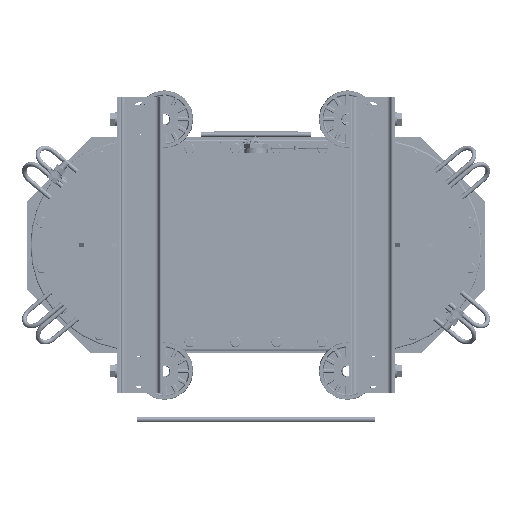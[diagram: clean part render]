
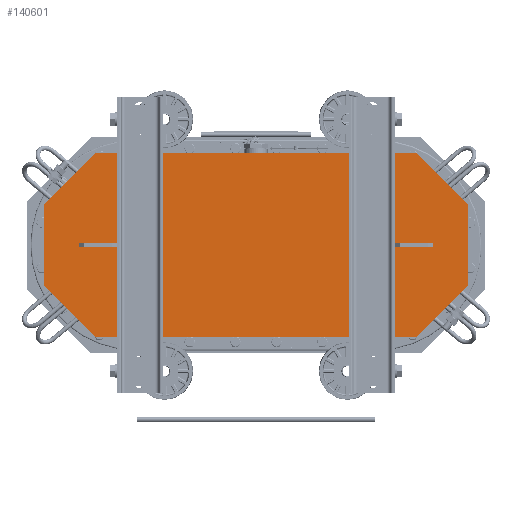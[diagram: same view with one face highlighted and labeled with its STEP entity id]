
A CAD part, front view. The second image highlights one B-rep face of the part: STEP entity #140601.
In plain terms, the highlighted planar face has unit normal (0, -1, 0).
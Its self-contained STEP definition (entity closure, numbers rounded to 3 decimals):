
#11393=PLANE('',#151423);
#18180=FACE_OUTER_BOUND('',#27401,.T.);
#27401=EDGE_LOOP('',(#108736,#108737,#108738,#108739,#108740,#108741,#108742,
#108743));
#37235=LINE('',#252282,#45519);
#37239=LINE('',#252290,#45523);
#37242=LINE('',#252296,#45526);
#37243=LINE('',#252298,#45527);
#37244=LINE('',#252300,#45528);
#37245=LINE('',#252302,#45529);
#37246=LINE('',#252304,#45530);
#37247=LINE('',#252305,#45531);
#45519=VECTOR('',#176509,10.);
#45523=VECTOR('',#176515,10.);
#45526=VECTOR('',#176520,10.);
#45527=VECTOR('',#176521,10.);
#45528=VECTOR('',#176522,10.);
#45529=VECTOR('',#176523,10.);
#45530=VECTOR('',#176524,10.);
#45531=VECTOR('',#176525,10.);
#61810=VERTEX_POINT('',#252280);
#61811=VERTEX_POINT('',#252281);
#61814=VERTEX_POINT('',#252289);
#61816=VERTEX_POINT('',#252295);
#61817=VERTEX_POINT('',#252297);
#61818=VERTEX_POINT('',#252299);
#61819=VERTEX_POINT('',#252301);
#61820=VERTEX_POINT('',#252303);
#78064=EDGE_CURVE('',#61810,#61811,#37235,.T.);
#78068=EDGE_CURVE('',#61811,#61814,#37239,.T.);
#78071=EDGE_CURVE('',#61816,#61810,#37242,.T.);
#78072=EDGE_CURVE('',#61817,#61816,#37243,.T.);
#78073=EDGE_CURVE('',#61818,#61817,#37244,.T.);
#78074=EDGE_CURVE('',#61819,#61818,#37245,.T.);
#78075=EDGE_CURVE('',#61820,#61819,#37246,.T.);
#78076=EDGE_CURVE('',#61814,#61820,#37247,.T.);
#108736=ORIENTED_EDGE('',*,*,#78064,.F.);
#108737=ORIENTED_EDGE('',*,*,#78071,.F.);
#108738=ORIENTED_EDGE('',*,*,#78072,.F.);
#108739=ORIENTED_EDGE('',*,*,#78073,.F.);
#108740=ORIENTED_EDGE('',*,*,#78074,.F.);
#108741=ORIENTED_EDGE('',*,*,#78075,.F.);
#108742=ORIENTED_EDGE('',*,*,#78076,.F.);
#108743=ORIENTED_EDGE('',*,*,#78068,.F.);
#140601=ADVANCED_FACE('',(#18180),#11393,.T.);
#151423=AXIS2_PLACEMENT_3D('',#252294,#176518,#176519);
#176509=DIRECTION('',(-0.707,0.,0.707));
#176515=DIRECTION('',(0.,0.,1.));
#176518=DIRECTION('center_axis',(0.,-1.,0.));
#176519=DIRECTION('ref_axis',(-1.,0.,0.));
#176520=DIRECTION('',(-1.,0.,0.));
#176521=DIRECTION('',(-0.707,0.,-0.707));
#176522=DIRECTION('',(0.,0.,-1.));
#176523=DIRECTION('',(0.707,0.,-0.707));
#176524=DIRECTION('',(1.,0.,0.));
#176525=DIRECTION('',(0.707,0.,0.707));
#252280=CARTESIAN_POINT('',(-276.5,-232.37,-159.));
#252281=CARTESIAN_POINT('',(-366.5,-232.37,-69.));
#252282=CARTESIAN_POINT('',(-269.625,-232.37,-165.875));
#252289=CARTESIAN_POINT('',(-366.5,-232.37,69.));
#252290=CARTESIAN_POINT('',(-366.5,-232.37,159.));
#252294=CARTESIAN_POINT('Origin',(0.,-232.37,
0.));
#252295=CARTESIAN_POINT('',(276.5,-232.37,-159.));
#252296=CARTESIAN_POINT('',(-366.5,-232.37,-159.));
#252297=CARTESIAN_POINT('',(366.5,-232.37,-69.));
#252298=CARTESIAN_POINT('',(269.625,-232.37,-165.875));
#252299=CARTESIAN_POINT('',(366.5,-232.37,69.));
#252300=CARTESIAN_POINT('',(366.5,-232.37,-159.));
#252301=CARTESIAN_POINT('',(276.5,-232.37,159.));
#252302=CARTESIAN_POINT('',(269.625,-232.37,165.875));
#252303=CARTESIAN_POINT('',(-276.5,-232.37,159.));
#252304=CARTESIAN_POINT('',(366.5,-232.37,159.));
#252305=CARTESIAN_POINT('',(-269.625,-232.37,165.875));
